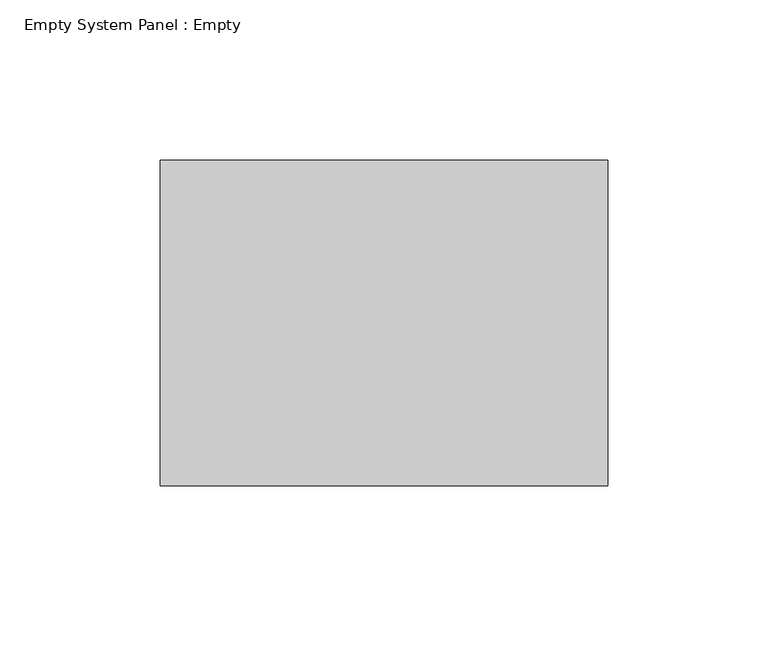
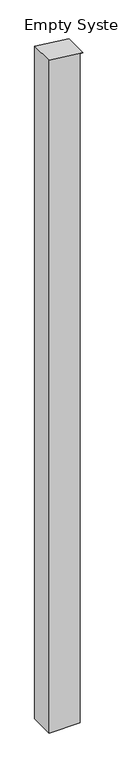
"""IFC4 building model written with IfcOpenShell, lengths in millimetres: plate geometry, Empty System Panel : Empty."""

from ifc_helpers import new_model, si_unit, frame, origin, place, context, project, spatial, polyline, outline, extrude, source, transform, mapped, element, save


def empty_system_panel_empty_9a6bf9e7(model_context):
    return source(origin(), model_context, "Body", "SweptSolid", [
        extrude(outline(polyline([(0.0, -69.85), (0.0, 57.15), (2894.767646, 57.15), (2894.767646, 69.85), (2910.3928359, -69.85), (0.0, -69.85)])), frame((0.0, -50.8, 0.0), z_axis=(0.0, 1.0, 0.0), x_axis=(0.0, 0.0, 1.0)), (0.0, 0.0, 1.0), 101.6),
    ])


if __name__ == "__main__":
    model = new_model("IFC4")
    model_context = context("Model", 3, world=origin())
    ifc_project = project(units=[si_unit("LENGTHUNIT", "METRE", prefix="MILLI")], contexts=[model_context])
    site = spatial("IfcSite", under=ifc_project)
    building = spatial("IfcBuilding", under=site)
    placement = place(None, origin())
    empty_system_panel_empty_shape = empty_system_panel_empty_9a6bf9e7(model_context)
    element("IfcPlate", 1, ObjectType="Empty System Panel : Empty", at=placement, inside=building, context=model_context, shape_type="MappedRepresentation", body=[
        mapped(empty_system_panel_empty_shape, transform((0.0, 0.0, 0.0), x_axis=(1.0, 0.0, 0.0), y_axis=(0.0, 1.0, 0.0), z_axis=(0.0, 0.0, 1.0))),
    ])
    save(model, "model.ifc")
